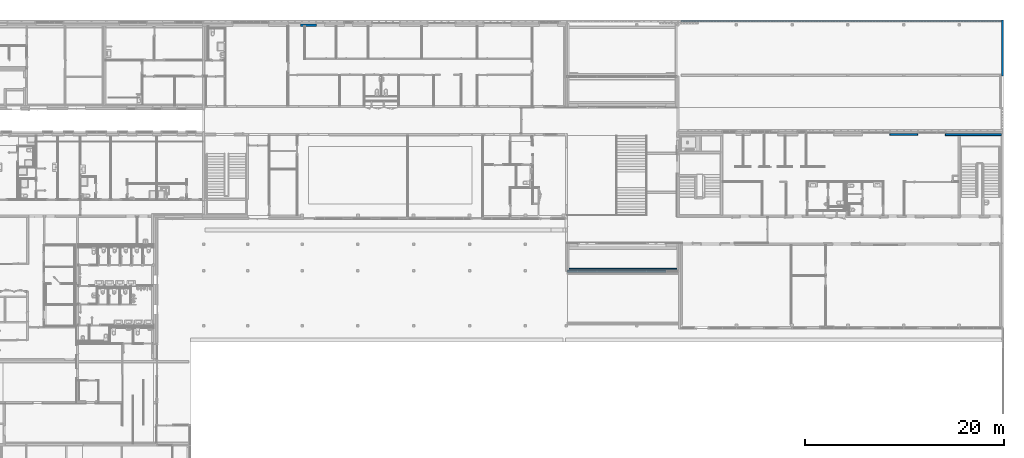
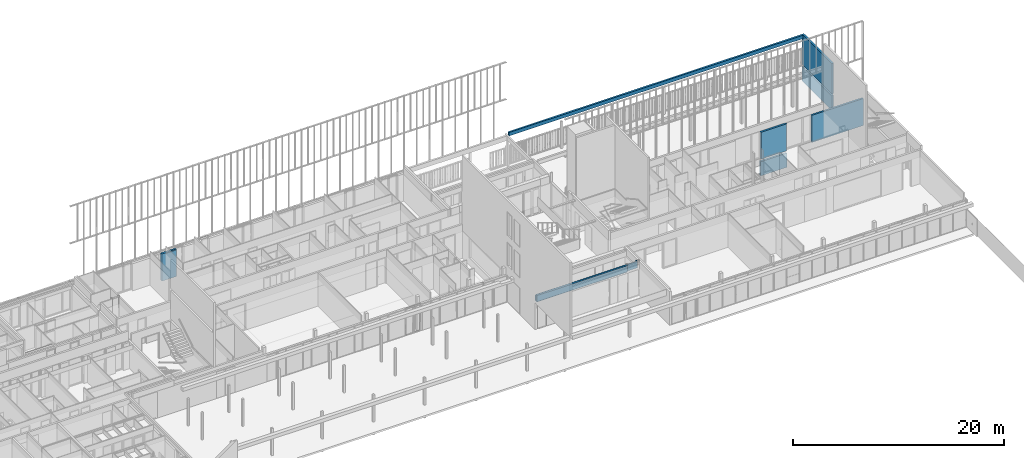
# One storey, part 175 of 240: 7 walls, 12 openings.
"""IFC2X3 building model written with IfcOpenShell, lengths in centimetres."""

from ifc_helpers import new_model, entity, si_unit, converted_unit, derived_unit, direction, frame, frame_2d, origin, origin_2d_with_axis, place, context, subcontext, project, spatial, rectangle, extrude, faceted_brep, material, layer, layer_set, layer_usage, type_object, element, save


model = new_model("IFC2X3")

# Units and contexts
model_context = context("Model", 3, precision=0.001, world=origin(), true_north=direction((6.12303176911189e-17, 1.0)))
body_context = subcontext(model_context, "Body", "Model", "MODEL_VIEW")
ifc_project = project(units=[si_unit("LENGTHUNIT", "METRE", prefix="CENTI"), si_unit("AREAUNIT", "SQUARE_METRE"), si_unit("VOLUMEUNIT", "CUBIC_METRE"), converted_unit("PLANEANGLEUNIT", "DEGREE", entity("IfcRatioMeasure", 0.0174532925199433), si_unit("PLANEANGLEUNIT", "RADIAN"), dimensions=[0, 0, 0, 0, 0, 0, 0]), si_unit("MASSUNIT", "GRAM", prefix="KILO"), derived_unit("MASSDENSITYUNIT", [(si_unit("MASSUNIT", "GRAM", prefix="KILO"), 1), (si_unit("LENGTHUNIT", "METRE"), -3)]), si_unit("TIMEUNIT", "SECOND"), si_unit("FREQUENCYUNIT", "HERTZ"), si_unit("THERMODYNAMICTEMPERATUREUNIT", "DEGREE_CELSIUS"), derived_unit("THERMALTRANSMITTANCEUNIT", [(si_unit("MASSUNIT", "GRAM", prefix="KILO"), 1), (si_unit("THERMODYNAMICTEMPERATUREUNIT", "KELVIN"), -1), (si_unit("TIMEUNIT", "SECOND"), -3)]), derived_unit("VOLUMETRICFLOWRATEUNIT", [(si_unit("LENGTHUNIT", "METRE"), 3), (si_unit("TIMEUNIT", "SECOND"), -1)]), si_unit("ELECTRICCURRENTUNIT", "AMPERE"), si_unit("ELECTRICVOLTAGEUNIT", "VOLT"), si_unit("POWERUNIT", "WATT"), si_unit("FORCEUNIT", "NEWTON", prefix="KILO"), si_unit("ILLUMINANCEUNIT", "LUX"), si_unit("LUMINOUSFLUXUNIT", "LUMEN"), si_unit("LUMINOUSINTENSITYUNIT", "CANDELA"), derived_unit("USERDEFINED", [(si_unit("MASSUNIT", "GRAM", prefix="KILO"), -1), (si_unit("LENGTHUNIT", "METRE"), -2), (si_unit("TIMEUNIT", "SECOND"), 3), (si_unit("LUMINOUSFLUXUNIT", "LUMEN"), 1)]), derived_unit("LINEARVELOCITYUNIT", [(si_unit("LENGTHUNIT", "METRE"), 1), (si_unit("TIMEUNIT", "SECOND"), -1)]), si_unit("PRESSUREUNIT", "PASCAL"), derived_unit("USERDEFINED", [(si_unit("LENGTHUNIT", "METRE"), -2), (si_unit("MASSUNIT", "GRAM", prefix="KILO"), 1), (si_unit("TIMEUNIT", "SECOND"), -2)])], contexts=[model_context])

# Site, building, storey
site_placement = place(None, frame((-2781.94577612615, 7442.24238424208, 0.0)))
site = spatial("IfcSite", under=ifc_project, at=site_placement, Name="Default", CompositionType="ELEMENT")
building_placement = place(site_placement, origin())
building = spatial("IfcBuilding", under=site, at=building_placement, CompositionType="ELEMENT")
storey_placement = place(building_placement, origin())
storey = spatial("IfcBuildingStorey", under=building, at=storey_placement, Name="N00 - COO", CompositionType="ELEMENT", Elevation=0.0)

# Walls
ifc_material_1 = material(Name="01 - Maçonnerie")
ifc_layer_1 = layer(ifc_material_1, 25.0)
ifc_layer_set_1 = layer_set([ifc_layer_1], Name="Mur de base:04 - Structure - béton - 25cm")
wall_type_1 = type_object("IfcWallType", Name="Mur de base:04 - Structure - béton - 25cm", PredefinedType="STANDARD", material=ifc_layer_set_1)
wall_1_placement = place(building_placement, frame((-7286.24987760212, -2.49999999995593, 0.0), z_axis=(0.0, 0.0, 1.0), x_axis=(-1.0, 0.0, 0.0)))
element("IfcWall", 1, at=wall_1_placement, inside=storey, type_object=wall_type_1, Name="Mur de base:04 - Structure - béton - 25cm", ObjectType="Mur de base:04 - Structure - béton - 25cm", context=body_context, shape_type="Brep", body=[
    faceted_brep([(0.0, -12.5, 0.0), (160.0, -12.5, 0.0), (160.0, -12.5, 313.0), (0.0, -12.5, 313.0), (160.0, 12.5, 0.0), (123.0, 12.5, 0.0), (113.0, 12.5, 0.0), (0.0, 12.5, 0.0), (0.0, 12.5, 306.0), (113.0, 12.5, 306.0), (113.0, 12.5, 313.0), (160.0, 12.5, 313.0), (113.0, 7.49999999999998, 313.0), (0.0, 7.49999999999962, 313.0), (0.0, 7.49999999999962, 306.0), (113.0, 7.49999999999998, 306.0)], [[[0, 1, 2, 3]], [[4, 5, 6, 7, 8, 9, 10, 11]], [[1, 0, 7, 6, 5, 4]], [[2, 1, 4, 11]], [[3, 2, 11, 10, 12, 13]], [[0, 3, 13, 14, 8, 7]], [[15, 9, 8, 14]], [[15, 12, 10, 9]], [[12, 15, 14, 13]]]),
])
ifc_layer_2 = layer(ifc_material_1, 20.0)
ifc_layer_set_2 = layer_set([ifc_layer_2], Name="Mur de base:04 - Structure - béton - 20cm")
ifc_layer_usage_1 = layer_usage(ifc_layer_set_2, "AXIS2", "NEGATIVE", 10.0)
wall_type_2 = type_object("IfcWallType", Name="Mur de base:04 - Structure - béton - 20cm", PredefinedType="STANDARD", material=ifc_layer_set_2)
wall_2_placement = place(building_placement, frame((-972.549882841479, -1100.0, 0.0)))
element("IfcWallStandardCase", 2, at=wall_2_placement, inside=storey, type_object=wall_type_2, material=ifc_layer_usage_1, Name="Mur de base:04 - Structure - béton - 20cm", ObjectType="Mur de base:04 - Structure - béton - 20cm", context=body_context, shape_type="SweptSolid", body=[
    extrude(rectangle(XDim=562.549999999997, YDim=20.0000000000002, at=frame_2d((281.274999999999, -9.76996261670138e-15), x_axis=(-1.0, 0.0))), origin(), (0.0, 0.0, 1.0), 313.0),
])

# Wall, openings
ifc_layer_usage_2 = layer_usage(ifc_layer_set_2, "AXIS2", "NEGATIVE", 10.0)
wall_3_placement = place(storey_placement, frame((-1532.54988284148, -1100.0, -190.0)))
wall_3 = element("IfcWallStandardCase", 3, at=wall_3_placement, inside=storey, type_object=wall_type_2, material=ifc_layer_usage_2, Name="Mur de base:04 - Structure - béton - 20cm", ObjectType="Mur de base:04 - Structure - béton - 20cm", context=body_context, shape_type="SweptSolid", body=[
    extrude(rectangle(XDim=286.5, YDim=19.9999999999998, at=frame_2d((143.25, 1.06581410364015e-14), x_axis=(-1.0, 0.0))), origin(), (0.0, 0.0, 1.0), 503.0),
])
opening_1_placement = place(storey_placement, frame((-1532.54988284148, -1100.0, -190.0)))
element("IfcOpeningElement", 4, at=opening_1_placement, cuts=wall_3, Name="Mur de base:04 - Structure - béton - 20cm:1", ObjectType="Opening", context=body_context, shape_type="SweptSolid", body=[
    extrude(rectangle(XDim=286.5, YDim=20.0, at=frame_2d((0.0, -1.08357767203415e-13), x_axis=(1.0, 0.0))), frame((143.25, 0.0, 164.0)), (0.0, 0.0, 1.0), 26.0),
])
opening_2_placement = place(wall_3_placement, origin())
element("IfcOpeningElement", 5, at=opening_2_placement, cuts=wall_3, Name="Mur de base:04 - Structure - béton - 20cm", ObjectType="Opening", context=body_context, shape_type="SweptSolid", body=[
    extrude(rectangle(XDim=312.5, YDim=286.5, at=frame_2d((0.0, -5.6843418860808e-14), x_axis=(1.0, 0.0))), frame((423.25, -25.2400000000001, 346.25), z_axis=(0.0, 1.0, 0.0), x_axis=(0.0, 0.0, 1.0)), (0.0, 0.0, 1.0), 50.48),
])
opening_3_placement = place(wall_3_placement, origin())
element("IfcOpeningElement", 6, at=opening_3_placement, cuts=wall_3, Name="Mur de base:04 - Structure - béton - 20cm", ObjectType="Opening", context=body_context, shape_type="SweptSolid", body=[
    extrude(rectangle(XDim=312.5, YDim=286.5, at=origin_2d_with_axis()), frame((-136.75, -25.2400000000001, 346.25), z_axis=(0.0, 1.0, 0.0), x_axis=(0.0, 0.0, 1.0)), (0.0, 0.0, 1.0), 50.48),
])
opening_4_placement = place(wall_3_placement, origin())
element("IfcOpeningElement", 7, at=opening_4_placement, cuts=wall_3, Name="Mur de base:04 - Structure - béton - 20cm", ObjectType="Opening", context=body_context, shape_type="SweptSolid", body=[
    extrude(rectangle(XDim=312.5, YDim=137.249999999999, at=origin_2d_with_axis()), frame((-1611.375, -25.2400000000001, 346.25), z_axis=(0.0, 1.0, 0.0), x_axis=(0.0, 0.0, 1.0)), (0.0, 0.0, 1.0), 50.48),
])
opening_5_placement = place(wall_3_placement, origin())
element("IfcOpeningElement", 8, at=opening_5_placement, cuts=wall_3, Name="Mur de base:04 - Structure - béton - 20cm", ObjectType="Opening", context=body_context, shape_type="SweptSolid", body=[
    extrude(rectangle(XDim=312.5, YDim=286.5, at=frame_2d((-2.1316282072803e-13, 0.0), x_axis=(0.0, 1.0))), frame((-1256.75, -25.2400000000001, 346.25), z_axis=(0.0, 1.0, 0.0), x_axis=(-1.0, 0.0, 0.0)), (0.0, 0.0, 1.0), 50.48),
])
opening_6_placement = place(wall_3_placement, origin())
element("IfcOpeningElement", 9, at=opening_6_placement, cuts=wall_3, Name="Mur de base:04 - Structure - béton - 20cm", ObjectType="Opening", context=body_context, shape_type="SweptSolid", body=[
    extrude(rectangle(XDim=312.5, YDim=89.9999999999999, at=frame_2d((2.16715534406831e-13, 0.0), x_axis=(0.0, 1.0))), frame((-881.749999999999, -25.2399999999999, 346.25), z_axis=(0.0, 1.0, 0.0), x_axis=(-1.0, 0.0, 0.0)), (0.0, 0.0, 1.0), 50.48),
])
opening_7_placement = place(wall_3_placement, origin())
element("IfcOpeningElement", 10, at=opening_7_placement, cuts=wall_3, Name="Mur de base:04 - Structure - béton - 20cm", ObjectType="Opening", context=body_context, shape_type="SweptSolid", body=[
    extrude(rectangle(XDim=312.5, YDim=286.5, at=frame_2d((-2.1316282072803e-13, 0.0), x_axis=(0.0, 1.0))), frame((-696.75, -25.2400000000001, 346.25), z_axis=(0.0, 1.0, 0.0), x_axis=(-1.0, 0.0, 0.0)), (0.0, 0.0, 1.0), 50.48),
])
opening_8_placement = place(wall_3_placement, origin())
element("IfcOpeningElement", 11, at=opening_8_placement, cuts=wall_3, Name="Mur de base:04 - Structure - béton - 20cm", ObjectType="Opening", context=body_context, shape_type="SweptSolid", body=[
    extrude(rectangle(XDim=299.5, YDim=83.5000000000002, at=frame_2d((-5.6843418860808e-14, 1.4210854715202e-14), x_axis=(0.0, 1.0))), frame((518.25, -142.400000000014, 346.25), z_axis=(0.0, 1.0, 0.0), x_axis=(-1.0, 0.0, 0.0)), (0.0, 0.0, 1.0), 304.8),
])
opening_9_placement = place(wall_3_placement, origin())
element("IfcOpeningElement", 12, at=opening_9_placement, cuts=wall_3, Name="Mur de base:04 - Structure - béton - 20cm", ObjectType="Opening", context=body_context, shape_type="SweptSolid", body=[
    extrude(rectangle(XDim=299.5, YDim=83.5000000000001, at=frame_2d((-1.4210854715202e-14, 0.0), x_axis=(1.0, 0.0))), frame((-41.7500000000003, -142.400000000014, 346.25), z_axis=(0.0, 1.0, 0.0), x_axis=(0.0, 0.0, 1.0)), (0.0, 0.0, 1.0), 304.8),
])
opening_10_placement = place(wall_3_placement, origin())
element("IfcOpeningElement", 13, at=opening_10_placement, cuts=wall_3, Name="Mur de base:04 - Structure - béton - 20cm", ObjectType="Opening", context=body_context, shape_type="SweptSolid", body=[
    extrude(rectangle(XDim=299.5, YDim=83.5000000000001, at=frame_2d((-1.4210854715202e-14, 0.0), x_axis=(1.0, 0.0))), frame((-601.75, -142.400000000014, 346.25), z_axis=(0.0, 1.0, 0.0), x_axis=(0.0, 0.0, 1.0)), (0.0, 0.0, 1.0), 304.8),
])
opening_11_placement = place(wall_3_placement, origin())
element("IfcOpeningElement", 14, at=opening_11_placement, cuts=wall_3, Name="Mur de base:04 - Structure - béton - 20cm", ObjectType="Opening", context=body_context, shape_type="SweptSolid", body=[
    extrude(rectangle(XDim=299.5, YDim=83.5000000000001, at=frame_2d((0.0, 1.4210854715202e-14), x_axis=(0.0, 1.0))), frame((-1161.75, -142.400000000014, 346.25), z_axis=(0.0, 1.0, 0.0), x_axis=(-1.0, 0.0, 0.0)), (0.0, 0.0, 1.0), 304.8),
])

# Wall
ifc_layer_usage_3 = layer_usage(ifc_layer_set_2, "AXIS2", "NEGATIVE", 10.0)
wall_4_placement = place(storey_placement, frame((-3623.99987968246, 40.0, 313.0)))
element("IfcWallStandardCase", 15, at=wall_4_placement, inside=storey, type_object=wall_type_2, material=ifc_layer_usage_3, Name="Mur de base:04 - Structure - béton - 20cm", ObjectType="Mur de base:04 - Structure - béton - 20cm", context=body_context, shape_type="SweptSolid", body=[
    extrude(rectangle(XDim=3213.99999684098, YDim=20.0, at=frame_2d((1606.99999842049, 2.66453525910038e-15), x_axis=(-1.0, 0.0))), origin(), (0.0, 0.0, 1.0), 40.000000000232),
])

# Wall, opening
ifc_layer_usage_4 = layer_usage(ifc_layer_set_2, "AXIS2", "NEGATIVE", 10.0)
wall_5_placement = place(building_placement, frame((-399.99988284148, -512.548500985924, -190.0), z_axis=(0.0, 0.0, 1.0), x_axis=(0.0, 1.0, 0.0)))
wall_5 = element("IfcWallStandardCase", 16, at=wall_5_placement, inside=storey, type_object=wall_type_2, material=ifc_layer_usage_4, Name="Mur de base:04 - Structure - béton - 20cm", ObjectType="Mur de base:04 - Structure - béton - 20cm", context=body_context, shape_type="SweptSolid", body=[
    extrude(rectangle(XDim=562.548500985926, YDim=20.0, at=frame_2d((281.274250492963, 0.0), x_axis=(-1.0, 0.0))), origin(), (0.0, 0.0, 1.0), 543.000000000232),
])
opening_12_placement = place(building_placement, frame((-399.99988284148, -512.548500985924, -190.0), z_axis=(0.0, 0.0, 1.0), x_axis=(0.0, 1.0, 0.0)))
element("IfcOpeningElement", 17, at=opening_12_placement, cuts=wall_5, Name="Mur de base:04 - Structure - béton - 20cm:1", ObjectType="Opening", context=body_context, shape_type="SweptSolid", body=[
    extrude(rectangle(XDim=562.548500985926, YDim=20.0, at=frame_2d((0.0, -1.08357767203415e-13), x_axis=(1.0, 0.0))), frame((281.274250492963, 0.0, 170.0)), (0.0, 0.0, 1.0), 20.0),
])

# Walls
wall_6_placement = place(storey_placement, frame((-4767.99987760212, -2470.15656731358, 313.0)))
element("IfcWall", 18, at=wall_6_placement, inside=storey, type_object=wall_type_2, Name="Mur de base:04 - Structure - béton - 20cm", ObjectType="Mur de base:04 - Structure - béton - 20cm", context=body_context, shape_type="Brep", body=[
    faceted_brep([(990.737043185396, -10.0, 78.0), (0.0, -10.0, 78.0), (0.0, -10.0, 7.0), (990.737043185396, -10.0, 7.0), (0.0, 10.0, 0.0), (0.0, 10.0, 78.0), (990.737043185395, 10.0, 78.0), (990.737043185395, 10.0, 0.0), (990.737043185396, -5.0, 0.0), (0.0, -5.0, 0.0), (0.0, -5.0, 7.0), (990.737043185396, -5.0, 7.0)], [[[0, 1, 2, 3]], [[4, 5, 6, 7]], [[4, 7, 8, 9]], [[5, 1, 0, 6]], [[1, 5, 4, 9, 10, 2]], [[7, 6, 0, 3, 11, 8]], [[10, 11, 3, 2]], [[11, 10, 9, 8]]]),
])
ifc_material_2 = material(Name="00 - Isolant")
ifc_layer_3 = layer(ifc_material_2, 20.0)
ifc_layer_set_3 = layer_set([ifc_layer_3], Name="Mur de base:04 - retour isolation acrotère - ITE 20 cm")
wall_type_3 = type_object("IfcWallType", Name="Mur de base:04 - retour isolation acrotère - ITE 20 cm", PredefinedType="STANDARD", material=ifc_layer_set_3)
wall_7_placement = place(storey_placement, frame((-4767.99987760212, -2450.15656731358, 313.0)))
element("IfcWall", 19, at=wall_7_placement, inside=storey, type_object=wall_type_3, Name="Mur de base:04 - retour isolation acrotère - ITE 20 cm", ObjectType="Mur de base:04 - retour isolation acrotère - ITE 20 cm", context=body_context, shape_type="Brep", body=[
    faceted_brep([(0.0, -10.0, 0.0), (1110.0, -10.0, 0.0), (1110.0, -10.0, 78.0), (0.0, -10.0, 78.0), (1110.0, 10.0, 0.0), (0.0, 10.0, 0.0), (0.0, 10.0, 62.0), (1100.0, 10.0, 62.0), (1100.0, 10.0, 78.0), (1110.0, 10.0, 78.0), (1100.0, -6.0, 78.0), (0.0, -6.0, 78.0), (0.0, -6.0, 62.0), (1100.0, -6.0, 62.0)], [[[0, 1, 2, 3]], [[4, 5, 6, 7, 8, 9]], [[1, 0, 5, 4]], [[2, 1, 4, 9]], [[3, 2, 9, 8, 10, 11]], [[0, 3, 11, 12, 6, 5]], [[12, 13, 7, 6]], [[13, 10, 8, 7]], [[13, 12, 11, 10]]]),
])

save(model, "model.ifc")
